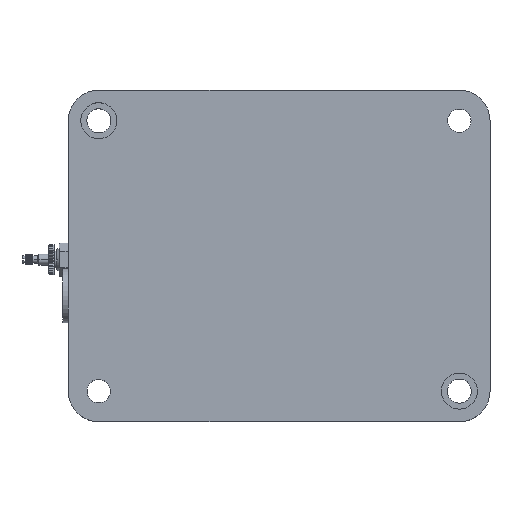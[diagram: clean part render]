
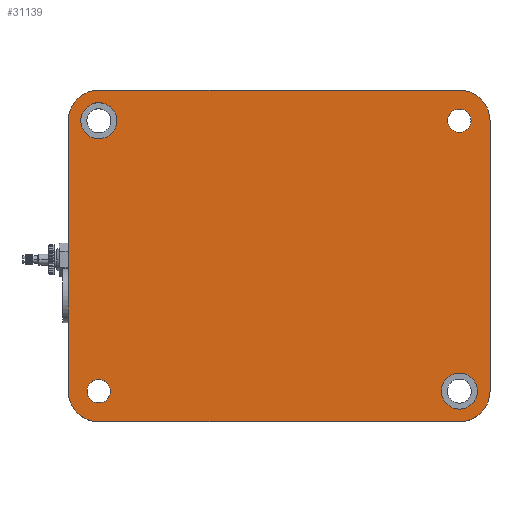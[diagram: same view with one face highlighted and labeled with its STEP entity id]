
A CAD part, top view. The second image highlights one B-rep face of the part: STEP entity #31139.
In plain terms, the highlighted planar face has unit normal (0, 0, 1).
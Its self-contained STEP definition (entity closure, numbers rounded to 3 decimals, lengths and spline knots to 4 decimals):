
#505=FACE_BOUND('',#3955,.T.);
#506=FACE_BOUND('',#3956,.T.);
#507=FACE_BOUND('',#3957,.T.);
#508=FACE_BOUND('',#3958,.T.);
#856=PLANE('',#33207);
#2243=FACE_OUTER_BOUND('',#3954,.T.);
#3954=EDGE_LOOP('',(#22622,#22623,#22624,#22625,#22626,#22627,#22628,#22629));
#3955=EDGE_LOOP('',(#22630));
#3956=EDGE_LOOP('',(#22631));
#3957=EDGE_LOOP('',(#22632));
#3958=EDGE_LOOP('',(#22633));
#5631=CIRCLE('',#33208,0.3346);
#5632=CIRCLE('',#33209,0.3346);
#5633=CIRCLE('',#33210,0.3346);
#5634=CIRCLE('',#33211,0.3346);
#5635=CIRCLE('',#33212,0.1969);
#5636=CIRCLE('',#33213,0.1969);
#5637=CIRCLE('',#33214,0.128);
#5638=CIRCLE('',#33215,0.128);
#6974=LINE('',#46442,#10322);
#6975=LINE('',#46446,#10323);
#6976=LINE('',#46450,#10324);
#6977=LINE('',#46454,#10325);
#10322=VECTOR('',#37449,0.3937);
#10323=VECTOR('',#37452,0.3937);
#10324=VECTOR('',#37455,0.3937);
#10325=VECTOR('',#37458,0.3937);
#13769=VERTEX_POINT('',#46440);
#13770=VERTEX_POINT('',#46441);
#13771=VERTEX_POINT('',#46443);
#13772=VERTEX_POINT('',#46445);
#13773=VERTEX_POINT('',#46447);
#13774=VERTEX_POINT('',#46449);
#13775=VERTEX_POINT('',#46451);
#13776=VERTEX_POINT('',#46453);
#13777=VERTEX_POINT('',#46456);
#13778=VERTEX_POINT('',#46458);
#13779=VERTEX_POINT('',#46460);
#13780=VERTEX_POINT('',#46462);
#17046=EDGE_CURVE('',#13769,#13770,#6974,.T.);
#17047=EDGE_CURVE('',#13771,#13769,#5631,.T.);
#17048=EDGE_CURVE('',#13772,#13771,#6975,.T.);
#17049=EDGE_CURVE('',#13773,#13772,#5632,.T.);
#17050=EDGE_CURVE('',#13774,#13773,#6976,.T.);
#17051=EDGE_CURVE('',#13775,#13774,#5633,.T.);
#17052=EDGE_CURVE('',#13776,#13775,#6977,.T.);
#17053=EDGE_CURVE('',#13770,#13776,#5634,.T.);
#17054=EDGE_CURVE('',#13777,#13777,#5635,.T.);
#17055=EDGE_CURVE('',#13778,#13778,#5636,.T.);
#17056=EDGE_CURVE('',#13779,#13779,#5637,.T.);
#17057=EDGE_CURVE('',#13780,#13780,#5638,.T.);
#22622=ORIENTED_EDGE('',*,*,#17046,.F.);
#22623=ORIENTED_EDGE('',*,*,#17047,.F.);
#22624=ORIENTED_EDGE('',*,*,#17048,.F.);
#22625=ORIENTED_EDGE('',*,*,#17049,.F.);
#22626=ORIENTED_EDGE('',*,*,#17050,.F.);
#22627=ORIENTED_EDGE('',*,*,#17051,.F.);
#22628=ORIENTED_EDGE('',*,*,#17052,.F.);
#22629=ORIENTED_EDGE('',*,*,#17053,.F.);
#22630=ORIENTED_EDGE('',*,*,#17054,.T.);
#22631=ORIENTED_EDGE('',*,*,#17055,.T.);
#22632=ORIENTED_EDGE('',*,*,#17056,.F.);
#22633=ORIENTED_EDGE('',*,*,#17057,.F.);
#31139=ADVANCED_FACE('',(#2243,#505,#506,#507,#508),#856,.F.);
#33207=AXIS2_PLACEMENT_3D('',#46439,#37447,#37448);
#33208=AXIS2_PLACEMENT_3D('',#46444,#37450,#37451);
#33209=AXIS2_PLACEMENT_3D('',#46448,#37453,#37454);
#33210=AXIS2_PLACEMENT_3D('',#46452,#37456,#37457);
#33211=AXIS2_PLACEMENT_3D('',#46455,#37459,#37460);
#33212=AXIS2_PLACEMENT_3D('',#46457,#37461,#37462);
#33213=AXIS2_PLACEMENT_3D('',#46459,#37463,#37464);
#33214=AXIS2_PLACEMENT_3D('',#46461,#37465,#37466);
#33215=AXIS2_PLACEMENT_3D('',#46463,#37467,#37468);
#37447=DIRECTION('center_axis',(0.,0.,
-1.));
#37448=DIRECTION('ref_axis',(1.,0.,0.));
#37449=DIRECTION('',(1.,0.,0.));
#37450=DIRECTION('center_axis',(0.,0.,
-1.));
#37451=DIRECTION('ref_axis',(-1.,0.,0.));
#37452=DIRECTION('',(0.,1.,0.));
#37453=DIRECTION('center_axis',(0.,0.,
-1.));
#37454=DIRECTION('ref_axis',(0.,-1.,0.));
#37455=DIRECTION('',(-1.,0.,0.));
#37456=DIRECTION('center_axis',(0.,0.,
-1.));
#37457=DIRECTION('ref_axis',(1.,0.,0.));
#37458=DIRECTION('',(0.,-1.,0.));
#37459=DIRECTION('center_axis',(0.,0.,
-1.));
#37460=DIRECTION('ref_axis',(0.,1.,0.));
#37461=DIRECTION('center_axis',(0.,0.,
-1.));
#37462=DIRECTION('ref_axis',(-1.,0.,0.));
#37463=DIRECTION('center_axis',(0.,0.,
-1.));
#37464=DIRECTION('ref_axis',(-1.,0.,0.));
#37465=DIRECTION('center_axis',(0.,0.,
1.));
#37466=DIRECTION('ref_axis',(-1.,0.,0.));
#37467=DIRECTION('center_axis',(0.,0.,
1.));
#37468=DIRECTION('ref_axis',(-1.,0.,0.));
#46439=CARTESIAN_POINT('Origin',(1.4471,-0.3543,0.4685));
#46440=CARTESIAN_POINT('',(-0.5214,1.4567,0.4685));
#46441=CARTESIAN_POINT('',(3.4156,1.4567,0.4685));
#46442=CARTESIAN_POINT('',(-0.5214,1.4567,0.4685));
#46443=CARTESIAN_POINT('',(-0.856,1.122,0.4685));
#46444=CARTESIAN_POINT('Origin',(-0.5214,1.122,0.4685));
#46445=CARTESIAN_POINT('',(-0.856,-1.8307,0.4685));
#46446=CARTESIAN_POINT('',(-0.856,-1.8307,0.4685));
#46447=CARTESIAN_POINT('',(-0.5214,-2.1654,0.4685));
#46448=CARTESIAN_POINT('Origin',(-0.5214,-1.8307,0.4685));
#46449=CARTESIAN_POINT('',(3.4156,-2.1654,0.4685));
#46450=CARTESIAN_POINT('',(3.4156,-2.1654,0.4685));
#46451=CARTESIAN_POINT('',(3.7503,-1.8307,0.4685));
#46452=CARTESIAN_POINT('Origin',(3.4156,-1.8307,0.4685));
#46453=CARTESIAN_POINT('',(3.7503,1.122,0.4685));
#46454=CARTESIAN_POINT('',(3.7503,1.122,0.4685));
#46455=CARTESIAN_POINT('Origin',(3.4156,1.122,0.4685));
#46456=CARTESIAN_POINT('',(-0.3245,1.122,0.4685));
#46457=CARTESIAN_POINT('Origin',(-0.5214,1.122,0.4685));
#46458=CARTESIAN_POINT('',(3.6125,-1.8307,0.4685));
#46459=CARTESIAN_POINT('Origin',(3.4156,-1.8307,0.4685));
#46460=CARTESIAN_POINT('',(-0.3934,-1.8307,0.4685));
#46461=CARTESIAN_POINT('Origin',(-0.5214,-1.8307,0.4685));
#46462=CARTESIAN_POINT('',(3.5436,1.122,0.4685));
#46463=CARTESIAN_POINT('Origin',(3.4156,1.122,0.4685));
